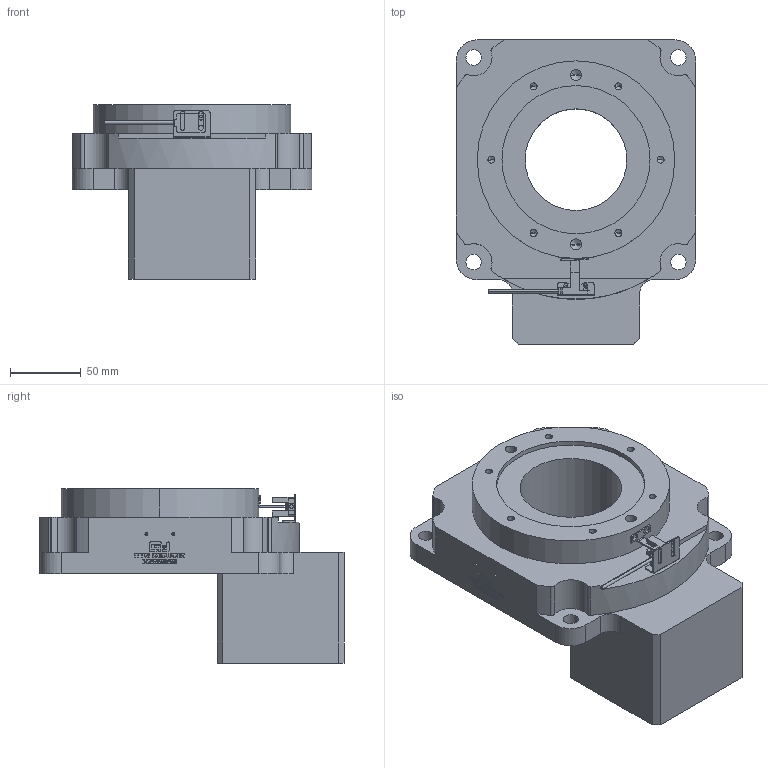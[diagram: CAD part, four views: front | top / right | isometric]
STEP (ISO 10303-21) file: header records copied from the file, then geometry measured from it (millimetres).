
FILE_DESCRIPTION (( 'STEP AP214' ), '1' );
FILE_NAME ('GT170-C-10-19-70-90-M6.STEP', '2024-07-04T03:12:49', ( '' ), ( '' ), 'SwSTEP 2.0', 'SolidWorks 2021', '' );
FILE_SCHEMA (( 'AUTOMOTIVE_DESIGN' ));
Length unit declared in the file: millimetre
Products named in the file (1): GT170-C-10-19-70-90-M6
Bounding box: 170 x 215.56 x 123.5 mm (x, y, z)
Volume: 1679660 mm3; surface area: 142100.8 mm2
Topology: 4 solids, 6 shells, 790 faces, 2144 edges, 1392 vertices
Faces by surface type: plane 549, cylinder 131, bspline 66, cone 44
Entity records: 33787 total; most frequent: CARTESIAN_POINT 5585, ORIENTED_EDGE 4200, DIRECTION 3638, EDGE_CURVE 2100, VECTOR 1660, LINE 1660, VERTEX_POINT 1392, AXIS2_PLACEMENT_3D 989
